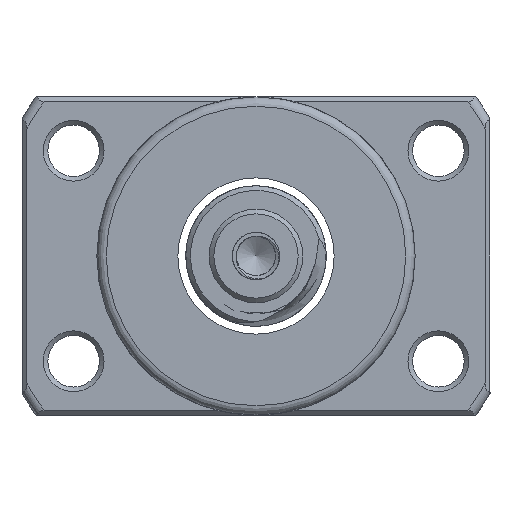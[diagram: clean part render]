
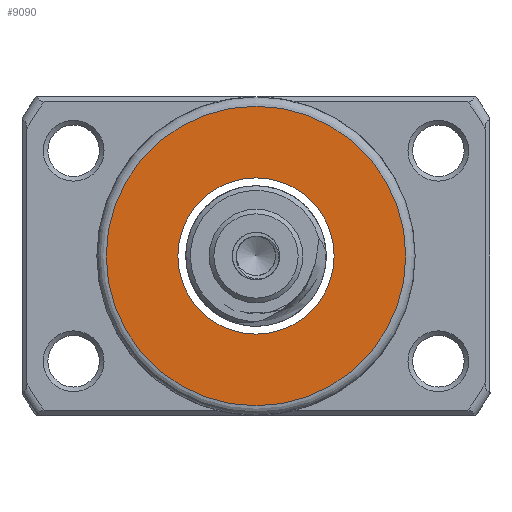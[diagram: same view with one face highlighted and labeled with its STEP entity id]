
A CAD part, left-side view. The second image highlights one B-rep face of the part: STEP entity #9090.
In plain terms, the highlighted planar face has unit normal (-1, 0, 0).
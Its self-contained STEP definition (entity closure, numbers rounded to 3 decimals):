
#831 = CARTESIAN_POINT ( 'NONE',  ( -53.324, 0., 8.35 ) ) ;
#1017 = FACE_OUTER_BOUND ( 'NONE', #17344, .T. ) ;
#1315 = FACE_BOUND ( 'NONE', #5683, .T. ) ;
#2702 = AXIS2_PLACEMENT_3D ( 'NONE', #4350, #4153, #16625 ) ;
#3106 = EDGE_CURVE ( 'NONE', #16931, #16931, #4335, .T. ) ;
#4153 = DIRECTION ( 'NONE',  ( -1., 0., 0. ) ) ;
#4335 = CIRCLE ( 'NONE', #2702, 16. ) ;
#4350 = CARTESIAN_POINT ( 'NONE',  ( -53.324, 0., 0. ) ) ;
#4939 = DIRECTION ( 'NONE',  ( -1., 0., 0. ) ) ;
#5683 = EDGE_LOOP ( 'NONE', ( #15843 ) ) ;
#8990 = DIRECTION ( 'NONE',  ( -1., 0., 0. ) ) ;
#9090 = ADVANCED_FACE ( 'NONE', ( #1017, #1315 ), #11786, .T. ) ;
#9442 = CARTESIAN_POINT ( 'NONE',  ( -53.324, 0., 16. ) ) ;
#10386 = DIRECTION ( 'NONE',  ( 0., 0., 1. ) ) ;
#11064 = EDGE_CURVE ( 'NONE', #15721, #15721, #17663, .T. ) ;
#11690 = CARTESIAN_POINT ( 'NONE',  ( -53.324, 8.35, 0. ) ) ;
#11786 = PLANE ( 'NONE',  #15109 ) ;
#12523 = CARTESIAN_POINT ( 'NONE',  ( -53.324, 0., 0. ) ) ;
#15109 = AXIS2_PLACEMENT_3D ( 'NONE', #11690, #8990, #10386 ) ;
#15721 = VERTEX_POINT ( 'NONE', #831 ) ;
#15843 = ORIENTED_EDGE ( 'NONE', *, *, #11064, .F. ) ;
#16036 = ORIENTED_EDGE ( 'NONE', *, *, #3106, .T. ) ;
#16625 = DIRECTION ( 'NONE',  ( 0., 0., 1. ) ) ;
#16931 = VERTEX_POINT ( 'NONE', #9442 ) ;
#17344 = EDGE_LOOP ( 'NONE', ( #16036 ) ) ;
#17663 = CIRCLE ( 'NONE', #18938, 8.35 ) ;
#18616 = DIRECTION ( 'NONE',  ( 0., 0., 1. ) ) ;
#18938 = AXIS2_PLACEMENT_3D ( 'NONE', #12523, #4939, #18616 ) ;
